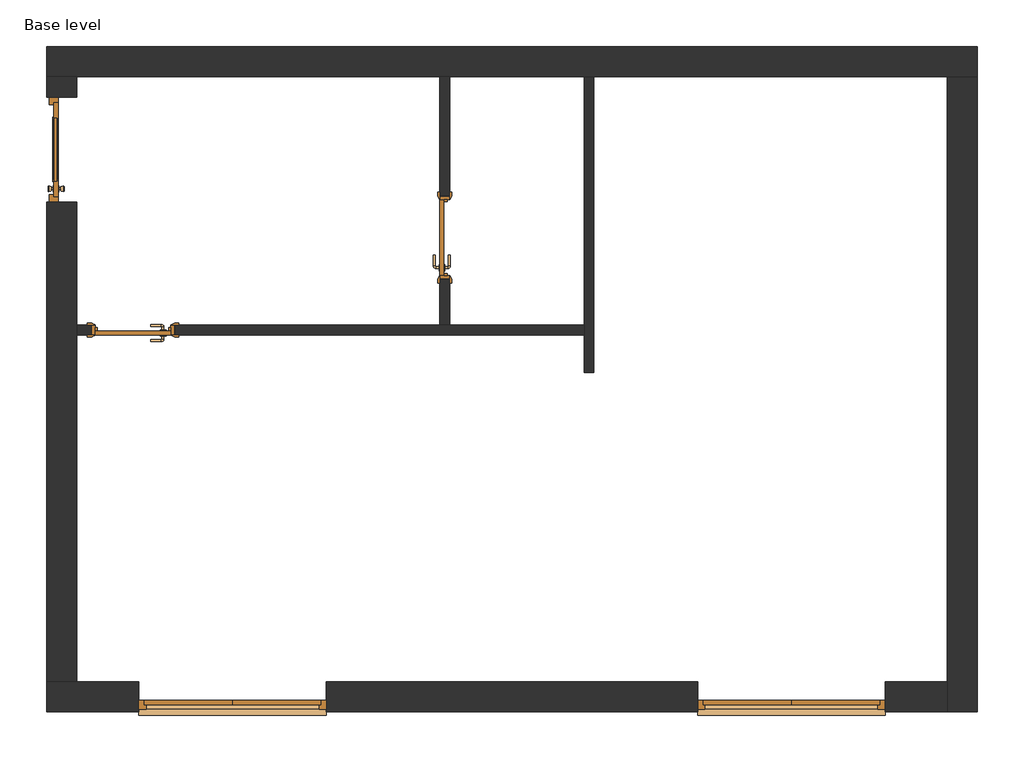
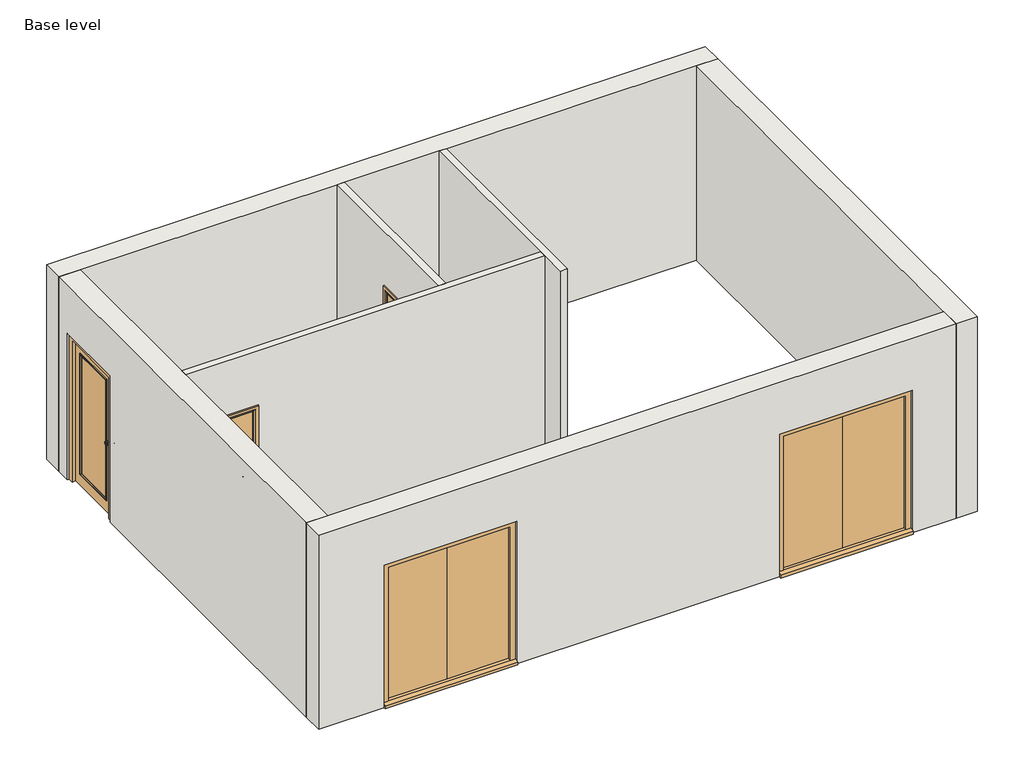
# One storey: 7 walls, 5 doors.
"""IFC4 building model written with IfcOpenShell, lengths in millimetres."""

from ifc_helpers import new_model, si_unit, frame, origin, place, context, project, spatial, polyline, outline, extrude, faceted_brep, transform, mapped, element, save
from components import concept_extdbl_62_1810_x_2110mm_d6508bf7, extsgl_1_51_1010_x_2110mm_960b48f2, intsgl_1_49_900_x_1989mm_72eeee74

model = new_model("IFC4")

# Units and contexts
model_context = context("Model", 3, world=origin())
ifc_project = project(units=[si_unit("LENGTHUNIT", "METRE", prefix="MILLI")], contexts=[model_context])

# Site, building, storey
site = spatial("IfcSite", under=ifc_project)
building = spatial("IfcBuilding", under=site)
storey = spatial("IfcBuildingStorey", under=building, Name="Base level", Elevation=0.0)

# Doors
placement = place(None, origin())
concept_extdbl_62_1810_x_2110mm_shape = concept_extdbl_62_1810_x_2110mm_d6508bf7(model_context)
element("IfcDoor", 1, ObjectType="Concept ExtDbl : 62 - 1810 x 2110mm", at=placement, inside=storey, context=model_context, shape_type="MappedRepresentation", body=[
    mapped(concept_extdbl_62_1810_x_2110mm_shape, transform((-5129.8860857, -8616.4820976, 0.0), x_axis=(1.0, 0.0, 0.0), y_axis=(0.0, 1.0, 0.0), z_axis=(0.0, 0.0, 1.0))),
])
element("IfcDoor", 2, ObjectType="Concept ExtDbl : 62 - 1810 x 2110mm", at=placement, inside=storey, context=model_context, shape_type="MappedRepresentation", body=[
    mapped(concept_extdbl_62_1810_x_2110mm_shape, transform((260.1139143, -8616.4820976, 0.0), x_axis=(1.0, 0.0, 0.0), y_axis=(0.0, 1.0, 0.0), z_axis=(0.0, 0.0, 1.0))),
])
extsgl_1_51_1010_x_2110mm_shape = extsgl_1_51_1010_x_2110mm_960b48f2(model_context)
element("IfcDoor", 3, ObjectType="ExtSgl (1) : 51 - 1010 x 2110mm", at=placement, inside=storey, context=model_context, shape_type="MappedRepresentation", body=[
    mapped(extsgl_1_51_1010_x_2110mm_shape, transform((-6779.8860857, -3332.8572404, 0.0), x_axis=(0.0, 1.0, 0.0), y_axis=(-1.0, 0.0, 0.0), z_axis=(0.0, 0.0, 1.0))),
])
intsgl_1_49_900_x_1989mm_shape = intsgl_1_49_900_x_1989mm_72eeee74(model_context)
element("IfcDoor", 4, ObjectType="IntSgl (1) : 49 - 900 x 1989mm", at=placement, inside=storey, context=model_context, shape_type="MappedRepresentation", body=[
    mapped(intsgl_1_49_900_x_1989mm_shape, transform((-6089.8860857, -5075.3572404, 0.0), x_axis=(-1.0, 0.0, 0.0), y_axis=(0.0, -1.0, 0.0), z_axis=(0.0, 0.0, 1.0))),
])
element("IfcDoor", 5, ObjectType="IntSgl (1) : 49 - 900 x 1989mm", at=placement, inside=storey, context=model_context, shape_type="MappedRepresentation", body=[
    mapped(intsgl_1_49_900_x_1989mm_shape, transform((-3082.3860857, -4182.8572404, 0.0), x_axis=(0.0, 1.0, 0.0), y_axis=(-1.0, 0.0, 0.0), z_axis=(0.0, 0.0, 1.0))),
])

# Walls
element("IfcWall", 6, ObjectType="External Wall", at=placement, inside=storey, context=model_context, shape_type="Brep", body=[
    faceted_brep([(-6924.8860857, -2627.8572404, 0.0), (-6634.8860857, -2627.8572404, 0.0), (-3129.8860857, -2627.8572404, 0.0), (-3034.8860857, -2627.8572404, 0.0), (-1739.8860857, -2627.8572404, 0.0), (-1644.8860857, -2627.8572404, 0.0), (1765.1139143, -2627.8572404, 0.0), (2055.1139143, -2627.8572404, 0.0), (2055.1139143, -2627.8572404, 2800.0), (1765.1139143, -2627.8572404, 2800.0), (-1644.8860857, -2627.8572404, 2800.0), (-1739.8860857, -2627.8572404, 2800.0), (-3034.8860857, -2627.8572404, 2800.0), (-3129.8860857, -2627.8572404, 2800.0), (-6634.8860857, -2627.8572404, 2800.0), (-6924.8860857, -2627.8572404, 2800.0), (-6924.8860857, -2337.8572404, 0.0), (-6924.8860857, -2337.8572404, 2800.0), (2055.1139143, -2337.8572404, 2800.0), (2055.1139143, -2337.8572404, 0.0)], [[[0, 1, 2, 3, 4, 5, 6, 7, 8, 9, 10, 11, 12, 13, 14, 15]], [[16, 17, 18, 19]], [[7, 6, 5, 4, 3, 2, 1, 0, 16, 19]], [[15, 14, 13, 12, 11, 10, 9, 8, 18, 17]], [[8, 7, 19, 18]], [[0, 15, 17, 16]]]),
])
element("IfcWall", 7, ObjectType="External Wall", at=placement, inside=storey, context=model_context, shape_type="Brep", body=[
    faceted_brep([(1765.1139143, -2627.8572404, 0.0), (1765.1139143, -8471.4820976, 0.0), (1765.1139143, -8761.4820976, 0.0), (1765.1139143, -8761.4820976, 2800.0), (1765.1139143, -8471.4820976, 2800.0), (1765.1139143, -2627.8572404, 2800.0), (2055.1139143, -2627.8572404, 0.0), (2055.1139143, -2627.8572404, 2800.0), (2055.1139143, -8761.4820976, 2800.0), (2055.1139143, -8761.4820976, 0.0)], [[[0, 1, 2, 3, 4, 5]], [[6, 7, 8, 9]], [[2, 1, 0, 6, 9]], [[5, 4, 3, 8, 7]], [[0, 5, 7, 6]], [[3, 2, 9, 8]]]),
])
element("IfcWall", 8, ObjectType="External Wall", at=placement, inside=storey, context=model_context, shape_type="Brep", body=[
    faceted_brep([(1765.1139143, -8471.4820976, 0.0), (1165.1139143, -8471.4820976, 0.0), (1165.1139143, -8471.4820976, 2055.0), (-644.8860857, -8471.4820976, 2055.0), (-644.8860857, -8471.4820976, 0.0), (-4224.8860857, -8471.4820976, 0.0), (-4224.8860857, -8471.4820976, 2055.0), (-6034.8860857, -8471.4820976, 2055.0), (-6034.8860857, -8471.4820976, 0.0), (-6634.8860857, -8471.4820976, 0.0), (-6924.8860857, -8471.4820976, 0.0), (-6924.8860857, -8471.4820976, 2800.0), (-6634.8860857, -8471.4820976, 2800.0), (1765.1139143, -8471.4820976, 2800.0), (1165.1139143, -8761.4820976, 2055.0), (1165.1139143, -8761.4820976, 0.0), (1765.1139143, -8761.4820976, 0.0), (1765.1139143, -8761.4820976, 2800.0), (-6924.8860857, -8761.4820976, 2800.0), (-6924.8860857, -8761.4820976, 0.0), (-6034.8860857, -8761.4820976, 0.0), (-6034.8860857, -8761.4820976, 2055.0), (-4224.8860857, -8761.4820976, 2055.0), (-4224.8860857, -8761.4820976, 0.0), (-644.8860857, -8761.4820976, 0.0), (-644.8860857, -8761.4820976, 2055.0)], [[[0, 1, 2, 3, 4, 5, 6, 7, 8, 9, 10, 11, 12, 13]], [[14, 15, 16, 17, 18, 19, 20, 21, 22, 23, 24, 25]], [[20, 19, 10, 9, 8]], [[24, 23, 5, 4]], [[16, 15, 1, 0]], [[13, 12, 11, 18, 17]], [[0, 13, 17, 16]], [[11, 10, 19, 18]], [[8, 7, 21, 20]], [[6, 5, 23, 22]], [[7, 6, 22, 21]], [[4, 3, 25, 24]], [[2, 1, 15, 14]], [[3, 2, 14, 25]]]),
])
element("IfcWall", 9, ObjectType="External Wall", at=placement, inside=storey, context=model_context, shape_type="Brep", body=[
    faceted_brep([(-6634.8860857, -2827.8572404, 2110.0), (-6634.8860857, -2827.8572404, 0.0), (-6634.8860857, -2627.8572404, 0.0), (-6634.8860857, -2627.8572404, 2800.0), (-6634.8860857, -5027.8572404, 2800.0), (-6634.8860857, -5122.8572404, 2800.0), (-6634.8860857, -8471.4820976, 2800.0), (-6634.8860857, -8471.4820976, 0.0), (-6634.8860857, -5122.8572404, 0.0), (-6634.8860857, -5027.8572404, 0.0), (-6634.8860857, -3837.8572404, 0.0), (-6634.8860857, -3837.8572404, 2110.0), (-6924.8860857, -2627.8572404, 0.0), (-6924.8860857, -2827.8572404, 0.0), (-6924.8860857, -2827.8572404, 2110.0), (-6924.8860857, -3837.8572404, 2110.0), (-6924.8860857, -3837.8572404, 0.0), (-6924.8860857, -8471.4820976, 0.0), (-6924.8860857, -8471.4820976, 2800.0), (-6924.8860857, -2627.8572404, 2800.0)], [[[0, 1, 2, 3, 4, 5, 6, 7, 8, 9, 10, 11]], [[12, 13, 14, 15, 16, 17, 18, 19]], [[2, 1, 13, 12]], [[10, 9, 8, 7, 17, 16]], [[6, 5, 4, 3, 19, 18]], [[3, 2, 12, 19]], [[7, 6, 18, 17]], [[16, 15, 11, 10]], [[14, 13, 1, 0]], [[15, 14, 0, 11]]]),
])
element("IfcWall", 10, ObjectType="Internal wall", at=placement, inside=storey, context=model_context, shape_type="Brep", body=[
    faceted_brep([(-1739.8860857, -5122.8572404, 2800.0), (-6634.8860857, -5122.8572404, 2800.0), (-6634.8860857, -5122.8572404, 0.0), (-6494.8860857, -5122.8572404, 0.0), (-6494.8860857, -5122.8572404, 1989.0), (-5684.8860857, -5122.8572404, 1989.0), (-5684.8860857, -5122.8572404, 0.0), (-1739.8860857, -5122.8572404, 0.0), (-6634.8860857, -5027.8572404, 2800.0), (-3129.8860857, -5027.8572404, 2800.0), (-3034.8860857, -5027.8572404, 2800.0), (-1739.8860857, -5027.8572404, 2800.0), (-1739.8860857, -5027.8572404, 0.0), (-3034.8860857, -5027.8572404, 0.0), (-3129.8860857, -5027.8572404, 0.0), (-5684.8860857, -5027.8572404, 0.0), (-5684.8860857, -5027.8572404, 1989.0), (-6494.8860857, -5027.8572404, 1989.0), (-6494.8860857, -5027.8572404, 0.0), (-6634.8860857, -5027.8572404, 0.0)], [[[0, 1, 2, 3, 4, 5, 6, 7]], [[8, 9, 10, 11, 12, 13, 14, 15, 16, 17, 18, 19]], [[2, 19, 18, 3]], [[12, 7, 6, 15, 14, 13]], [[1, 0, 11, 10, 9, 8]], [[2, 1, 8, 19]], [[0, 7, 12, 11]], [[17, 4, 3, 18]], [[4, 17, 16, 5]], [[5, 16, 15, 6]]]),
])
element("IfcWall", 11, ObjectType="Internal wall", at=placement, inside=storey, context=model_context, shape_type="SweptSolid", body=[
    extrude(outline(polyline([(-5027.8572404, 2800.0), (-2627.8572404, 2800.0), (-2627.8572404, 0.0), (-3777.8572404, 0.0), (-3777.8572404, 1989.0), (-4587.8572404, 1989.0), (-4587.8572404, 0.0), (-5027.8572404, 0.0), (-5027.8572404, 2800.0)])), frame((-3129.8860857, 0.0, 0.0), z_axis=(1.0, 0.0, 0.0), x_axis=(0.0, 1.0, 0.0)), (0.0, 0.0, 1.0), 95.0),
])
element("IfcWall", 12, ObjectType="Internal wall", at=placement, inside=storey, context=model_context, shape_type="Brep", body=[
    faceted_brep([(-1739.8860857, -2627.8572404, 0.0), (-1739.8860857, -5027.8572404, 0.0), (-1739.8860857, -5122.8572404, 0.0), (-1739.8860857, -5482.8572404, 0.0), (-1739.8860857, -5482.8572404, 2800.0), (-1739.8860857, -5122.8572404, 2800.0), (-1739.8860857, -5027.8572404, 2800.0), (-1739.8860857, -2627.8572404, 2800.0), (-1644.8860857, -2627.8572404, 0.0), (-1644.8860857, -2627.8572404, 2800.0), (-1644.8860857, -5482.8572404, 2800.0), (-1644.8860857, -5482.8572404, 0.0)], [[[0, 1, 2, 3, 4, 5, 6, 7]], [[8, 9, 10, 11]], [[3, 2, 1, 0, 8, 11]], [[4, 3, 11, 10]], [[7, 6, 5, 4, 10, 9]], [[0, 7, 9, 8]]]),
])

save(model, "model.ifc")
